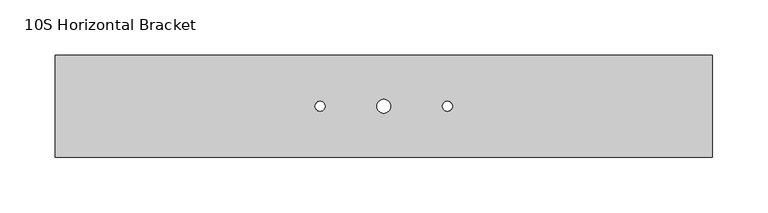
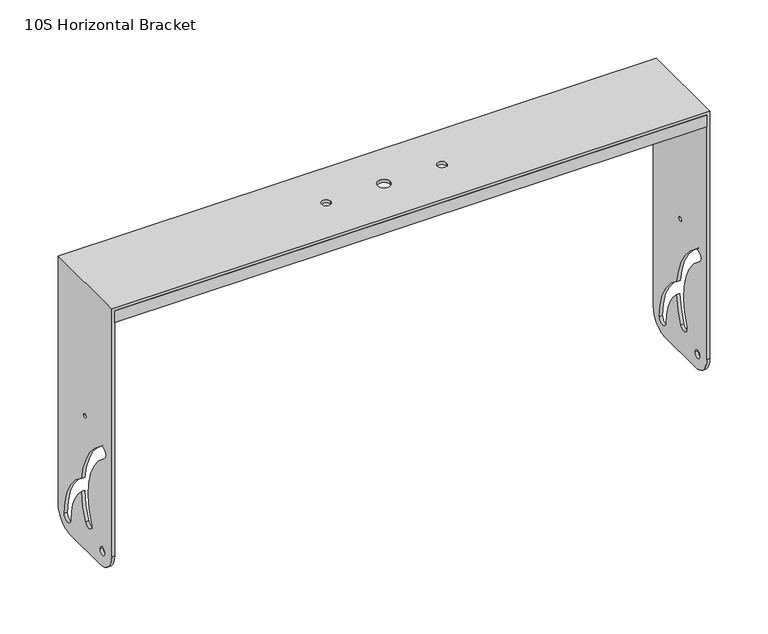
"""IFC4 building model written with IfcOpenShell, lengths in millimetres: proxy geometry, d&b xS-Series 10S Horizontal Bracket : 10S Horizontal Bracket."""

from ifc_helpers import new_model, si_unit, frame, origin, place, context, project, spatial, polyline, circle_curve, outline, extrude, source, transform, mapped, element, save
from ifc_brep_helpers import plane_surface, cylinder_surface, revolved_surface, advanced_brep


def proxy_10s_horizontal_bracket_cd0d0b8b(model_context):
    return source(origin(), model_context, "Body", "SolidModel", [
        extrude(outline(polyline([(-294.0, 68.2354286), (294.0, 68.2354286), (294.0, 65.2354286), (-294.0, 65.2354286), (-294.0, 68.2354286)])), frame((0.0, 0.0, 271.9837494), z_axis=(0.0, 0.0, 1.0), x_axis=(1.0, 0.0, 0.0)), (0.0, 0.0, 1.0), 12.0),
        extrude(outline(polyline([(-294.0, -20.7645714), (294.0, -20.7645714), (294.0, -23.7645714), (-294.0, -23.7645714), (-294.0, -20.7645714)])), frame((0.0, 0.0, 271.9837494), z_axis=(0.0, 0.0, 1.0), x_axis=(1.0, 0.0, 0.0)), (0.0, 0.0, 1.0), 12.0),
        advanced_brep(
        [(-294.0, -23.7645714, 283.9837494), (294.0, -23.7645714, 283.9837494), (294.0, -23.7645714, 26.9837494), (297.0, -23.7645714, 26.9837494), (297.0, -23.7645714, 286.9837494), (-297.0, -23.7645714, 286.9837494), (-297.0, -23.7645714, 26.9837494), (-294.0, -23.7645714, 26.9837494), (-297.0, 68.2354286, 286.9837494), (297.0, 68.2354286, 286.9837494), (297.0, 68.2354286, 26.9837494), (294.0, 68.2354286, 26.9837494), (294.0, 68.2354286, 283.9837494), (-294.0, 68.2354286, 283.9837494), (-294.0, 68.2354286, 26.9837494), (-297.0, 68.2354286, 26.9837494), (-297.0, -3.7645714, 6.9837494), (-297.0, 48.2354286, 6.9837494), (-294.0, 48.2354286, 6.9837494), (-294.0, -3.7645714, 6.9837494), (-294.0, -3.7645714, 22.9837494), (-294.0, -11.7645714, 22.9837494), (-294.0, 57.735397, 23.0021892), (-294.0, 46.7354301, 22.9864166), (-294.0, 28.0032302, 64.1190832), (-294.0, 20.8513164, 36.3290125), (-294.0, 10.9065388, 41.0302249), (-294.0, -11.1639859, 122.5508763), (-294.0, -4.7306092, 131.4704467), (-294.0, 27.5782565, 78.1596119), (-294.0, 24.2354286, 146.9837494), (-294.0, 20.2354286, 146.9837494), (-6.25, 22.2354286, 283.9837494), (6.25, 22.2354286, 283.9837494), (-62.0, 22.2354286, 283.9837494), (-53.0, 22.2354286, 283.9837494), (62.0, 22.2354286, 283.9837494), (53.0, 22.2354286, 283.9837494), (294.0, 48.2354286, 6.9837494), (294.0, -3.7645714, 6.9837494), (294.0, -11.7645714, 22.9837494), (294.0, -3.7645714, 22.9837494), (294.0, 46.7354301, 22.9864166), (294.0, 57.735397, 23.0021892), (294.0, 27.5782565, 78.1596119), (294.0, -4.727646, 131.4747416), (294.0, -11.1639859, 122.5508763), (294.0, 10.9065388, 41.0302249), (294.0, 20.8513164, 36.3290125), (294.0, 28.0032302, 64.1190832), (294.0, 20.2354286, 146.9837494), (294.0, 24.2354286, 146.9837494), (297.0, 48.2354286, 6.9837494), (297.0, -3.7645714, 6.9837494), (297.0, -3.7645714, 22.9837494), (297.0, -11.7645714, 22.9837494), (297.0, 57.735397, 23.0021892), (297.0, 46.7354301, 22.9864166), (297.0, 28.0032302, 64.1190832), (297.0, 20.8513164, 36.3290125), (297.0, 10.9065388, 41.0302249), (297.0, -11.1639859, 122.5508763), (297.0, -4.7306092, 131.4704467), (297.0, 27.5782565, 78.1596119), (297.0, 24.2354286, 146.9837494), (297.0, 20.2354286, 146.9837494), (6.25, 22.2354286, 286.9837494), (-6.25, 22.2354286, 286.9837494), (-53.0, 22.2354286, 286.9837494), (-62.0, 22.2354286, 286.9837494), (53.0, 22.2354286, 286.9837494), (62.0, 22.2354286, 286.9837494), (-297.0, -11.7645714, 22.9837494), (-297.0, -3.7645714, 22.9837494), (-297.0, 46.7354301, 22.9864166), (-297.0, 57.735397, 23.0021892), (-297.0, 27.5782565, 78.1596119), (-297.0, -4.727646, 131.4747416), (-297.0, -11.1639859, 122.5508763), (-297.0, 10.9065388, 41.0302249), (-297.0, 20.8513164, 36.3290125), (-297.0, 28.0032302, 64.1190832), (-297.0, 20.2354286, 146.9837494), (-297.0, 24.2354286, 146.9837494)],
        [
            (0, 1),
            (1, 2),
            (2, 3),
            (3, 4),
            (4, 5),
            (5, 6),
            (6, 7),
            (7, 0),
            (8, 9),
            (9, 10),
            (10, 11),
            (11, 12),
            (12, 13),
            (13, 14),
            (14, 15),
            (15, 8),
            (16, 17),
            (17, 18),
            (18, 19),
            (19, 16),
            (13, 0),
            (7, 19, circle_curve(frame((-294.0, -3.7645714, 26.9837494), z_axis=(1.0, 0.0, 0.0), x_axis=(0.0, 0.0, -1.0)), 20.0)),
            (18, 14, circle_curve(frame((-294.0, 48.2354286, 26.9837494), z_axis=(1.0, 0.0, 0.0), x_axis=(0.0, 0.0, -1.0)), 20.0)),
            (20, 21, circle_curve(frame((-294.0, -7.7645714, 22.9837494), z_axis=(-1.0, 0.0, 0.0), x_axis=(0.0, 1.0, 0.0)), 4.0)),
            (21, 20, circle_curve(frame((-294.0, -7.7645714, 22.9837494), z_axis=(-1.0, 0.0, 0.0), x_axis=(0.0, 1.0, 0.0)), 4.0)),
            (22, 23, circle_curve(frame((-294.0, 52.2354286, 22.9837494), z_axis=(-1.0, 0.0, 0.0), x_axis=(0.0, 1.0, 0.0)), 5.4999992)),
            (23, 24, circle_curve(frame((-294.0, -7.7327749, 23.0128308), z_axis=(1.0, 0.0, 0.0), x_axis=(0.0, 1.0, 0.0)), 54.4682113)),
            (24, 25, circle_curve(frame((-294.0, -47.9366268, 68.8472597), z_axis=(-1.0, 0.0, 0.0), x_axis=(0.0, 1.0, 0.0)), 76.0869077)),
            (25, 26, circle_curve(frame((-294.0, 15.8789276, 38.6796187), z_axis=(-1.0, 0.0, 0.0), x_axis=(0.0, 1.0, 0.0)), 5.5)),
            (26, 27, circle_curve(frame((-294.0, -47.9366268, 68.8472597), z_axis=(1.0, 0.0, 0.0), x_axis=(0.0, 1.0, 0.0)), 65.0869077)),
            (27, 28, circle_curve(frame((-294.0, -7.8540033, 126.9433716), z_axis=(-1.0, 0.0, 0.0), x_axis=(0.0, 1.0, 0.0)), 5.5)),
            (28, 29, circle_curve(frame((-294.0, -47.9366268, 68.8472597), z_axis=(-1.0, 0.0, 0.0), x_axis=(0.0, 1.0, 0.0)), 76.0869076)),
            (29, 22, circle_curve(frame((-294.0, -8.0030682, 22.8827687), z_axis=(-1.0, 0.0, 0.0), x_axis=(0.0, 1.0, 0.0)), 65.7385737)),
            (30, 31, circle_curve(frame((-294.0, 22.2354286, 146.9837494), z_axis=(-1.0, 0.0, 0.0), x_axis=(0.0, 1.0, 0.0)), 2.0)),
            (31, 30, circle_curve(frame((-294.0, 22.2354286, 146.9837494), z_axis=(-1.0, 0.0, 0.0), x_axis=(0.0, 1.0, 0.0)), 2.0)),
            (12, 1),
            (32, 33, circle_curve(frame((0.0, 22.2354286, 283.9837494), z_axis=(0.0, 0.0, 1.0), x_axis=(1.0, 0.0, 0.0)), 6.25)),
            (33, 32, circle_curve(frame((0.0, 22.2354286, 283.9837494), z_axis=(0.0, 0.0, 1.0), x_axis=(1.0, 0.0, 0.0)), 6.25)),
            (34, 35, circle_curve(frame((-57.5, 22.2354286, 283.9837494), z_axis=(0.0, 0.0, 1.0), x_axis=(1.0, 0.0, 0.0)), 4.5)),
            (35, 34, circle_curve(frame((-57.5, 22.2354286, 283.9837494), z_axis=(0.0, 0.0, 1.0), x_axis=(1.0, 0.0, 0.0)), 4.5)),
            (36, 37, circle_curve(frame((57.5, 22.2354286, 283.9837494), z_axis=(0.0, 0.0, 1.0), x_axis=(-1.0, 0.0, 0.0)), 4.5)),
            (37, 36, circle_curve(frame((57.5, 22.2354286, 283.9837494), z_axis=(0.0, 0.0, 1.0), x_axis=(-1.0, 0.0, 0.0)), 4.5)),
            (11, 38, circle_curve(frame((294.0, 48.2354286, 26.9837494), z_axis=(-1.0, 0.0, 0.0), x_axis=(0.0, 0.0, -1.0)), 20.0)),
            (38, 39),
            (39, 2, circle_curve(frame((294.0, -3.7645714, 26.9837494), z_axis=(-1.0, 0.0, 0.0), x_axis=(0.0, 0.0, -1.0)), 20.0)),
            (40, 41, circle_curve(frame((294.0, -7.7645714, 22.9837494), z_axis=(1.0, 0.0, 0.0), x_axis=(0.0, 1.0, 0.0)), 4.0)),
            (41, 40, circle_curve(frame((294.0, -7.7645714, 22.9837494), z_axis=(1.0, 0.0, 0.0), x_axis=(0.0, 1.0, 0.0)), 4.0)),
            (42, 43, circle_curve(frame((294.0, 52.2354286, 22.9837494), z_axis=(1.0, 0.0, 0.0), x_axis=(0.0, 1.0, 0.0)), 5.4999992)),
            (43, 44, circle_curve(frame((294.0, -8.0030682, 22.8827687), z_axis=(1.0, 0.0, 0.0), x_axis=(0.0, 1.0, 0.0)), 65.7385737)),
            (44, 45, circle_curve(frame((294.0, -47.9366268, 68.8472597), z_axis=(1.0, 0.0, 0.0), x_axis=(0.0, 1.0, 0.0)), 76.0869076)),
            (45, 46, circle_curve(frame((294.0, -7.8540033, 126.9433716), z_axis=(1.0, 0.0, 0.0), x_axis=(0.0, 1.0, 0.0)), 5.5)),
            (46, 47, circle_curve(frame((294.0, -47.9366268, 68.8472597), z_axis=(-1.0, 0.0, 0.0), x_axis=(0.0, 1.0, 0.0)), 65.0869077)),
            (47, 48, circle_curve(frame((294.0, 15.8789276, 38.6796187), z_axis=(1.0, 0.0, 0.0), x_axis=(0.0, 1.0, 0.0)), 5.5)),
            (48, 49, circle_curve(frame((294.0, -47.9366268, 68.8472597), z_axis=(1.0, 0.0, 0.0), x_axis=(0.0, 1.0, 0.0)), 76.0869077)),
            (49, 42, circle_curve(frame((294.0, -7.7327749, 23.0128308), z_axis=(-1.0, 0.0, 0.0), x_axis=(0.0, 1.0, 0.0)), 54.4682113)),
            (50, 51, circle_curve(frame((294.0, 22.2354286, 146.9837494), z_axis=(1.0, 0.0, 0.0), x_axis=(0.0, 1.0, 0.0)), 2.0)),
            (51, 50, circle_curve(frame((294.0, 22.2354286, 146.9837494), z_axis=(1.0, 0.0, 0.0), x_axis=(0.0, 1.0, 0.0)), 2.0)),
            (38, 52),
            (52, 53),
            (53, 39),
            (9, 4),
            (3, 53, circle_curve(frame((297.0, -3.7645714, 26.9837494), z_axis=(1.0, 0.0, 0.0), x_axis=(0.0, 0.0, -1.0)), 20.0)),
            (52, 10, circle_curve(frame((297.0, 48.2354286, 26.9837494), z_axis=(1.0, 0.0, 0.0), x_axis=(0.0, 0.0, -1.0)), 20.0)),
            (54, 55, circle_curve(frame((297.0, -7.7645714, 22.9837494), z_axis=(-1.0, 0.0, 0.0), x_axis=(0.0, 1.0, 0.0)), 4.0)),
            (55, 54, circle_curve(frame((297.0, -7.7645714, 22.9837494), z_axis=(-1.0, 0.0, 0.0), x_axis=(0.0, 1.0, 0.0)), 4.0)),
            (56, 57, circle_curve(frame((297.0, 52.2354286, 22.9837494), z_axis=(-1.0, 0.0, 0.0), x_axis=(0.0, 1.0, 0.0)), 5.4999992)),
            (57, 58, circle_curve(frame((297.0, -7.7327749, 23.0128308), z_axis=(1.0, 0.0, 0.0), x_axis=(0.0, 1.0, 0.0)), 54.4682113)),
            (58, 59, circle_curve(frame((297.0, -47.9366268, 68.8472597), z_axis=(-1.0, 0.0, 0.0), x_axis=(0.0, 1.0, 0.0)), 76.0869077)),
            (59, 60, circle_curve(frame((297.0, 15.8789276, 38.6796187), z_axis=(-1.0, 0.0, 0.0), x_axis=(0.0, 1.0, 0.0)), 5.5)),
            (60, 61, circle_curve(frame((297.0, -47.9366268, 68.8472597), z_axis=(1.0, 0.0, 0.0), x_axis=(0.0, 1.0, 0.0)), 65.0869077)),
            (61, 62, circle_curve(frame((297.0, -7.8540033, 126.9433716), z_axis=(-1.0, 0.0, 0.0), x_axis=(0.0, 1.0, 0.0)), 5.5)),
            (62, 63, circle_curve(frame((297.0, -47.9366268, 68.8472597), z_axis=(-1.0, 0.0, 0.0), x_axis=(0.0, 1.0, 0.0)), 76.0869076)),
            (63, 56, circle_curve(frame((297.0, -8.0030682, 22.8827687), z_axis=(-1.0, 0.0, 0.0), x_axis=(0.0, 1.0, 0.0)), 65.7385737)),
            (64, 65, circle_curve(frame((297.0, 22.2354286, 146.9837494), z_axis=(-1.0, 0.0, 0.0), x_axis=(0.0, 1.0, 0.0)), 2.0)),
            (65, 64, circle_curve(frame((297.0, 22.2354286, 146.9837494), z_axis=(-1.0, 0.0, 0.0), x_axis=(0.0, 1.0, 0.0)), 2.0)),
            (8, 5),
            (66, 67, circle_curve(frame((0.0, 22.2354286, 286.9837494), z_axis=(0.0, 0.0, -1.0), x_axis=(1.0, 0.0, 0.0)), 6.25)),
            (67, 66, circle_curve(frame((0.0, 22.2354286, 286.9837494), z_axis=(0.0, 0.0, -1.0), x_axis=(1.0, 0.0, 0.0)), 6.25)),
            (68, 69, circle_curve(frame((-57.5, 22.2354286, 286.9837494), z_axis=(0.0, 0.0, -1.0), x_axis=(1.0, 0.0, 0.0)), 4.5)),
            (69, 68, circle_curve(frame((-57.5, 22.2354286, 286.9837494), z_axis=(0.0, 0.0, -1.0), x_axis=(1.0, 0.0, 0.0)), 4.5)),
            (70, 71, circle_curve(frame((57.5, 22.2354286, 286.9837494), z_axis=(0.0, 0.0, -1.0), x_axis=(-1.0, 0.0, 0.0)), 4.5)),
            (71, 70, circle_curve(frame((57.5, 22.2354286, 286.9837494), z_axis=(0.0, 0.0, -1.0), x_axis=(-1.0, 0.0, 0.0)), 4.5)),
            (15, 17, circle_curve(frame((-297.0, 48.2354286, 26.9837494), z_axis=(-1.0, 0.0, 0.0), x_axis=(0.0, 0.0, -1.0)), 20.0)),
            (16, 6, circle_curve(frame((-297.0, -3.7645714, 26.9837494), z_axis=(-1.0, 0.0, 0.0), x_axis=(0.0, 0.0, -1.0)), 20.0)),
            (72, 73, circle_curve(frame((-297.0, -7.7645714, 22.9837494), z_axis=(1.0, 0.0, 0.0), x_axis=(0.0, 1.0, 0.0)), 4.0)),
            (73, 72, circle_curve(frame((-297.0, -7.7645714, 22.9837494), z_axis=(1.0, 0.0, 0.0), x_axis=(0.0, 1.0, 0.0)), 4.0)),
            (74, 75, circle_curve(frame((-297.0, 52.2354286, 22.9837494), z_axis=(1.0, 0.0, 0.0), x_axis=(0.0, 1.0, 0.0)), 5.4999992)),
            (75, 76, circle_curve(frame((-297.0, -8.0030682, 22.8827687), z_axis=(1.0, 0.0, 0.0), x_axis=(0.0, 1.0, 0.0)), 65.7385737)),
            (76, 77, circle_curve(frame((-297.0, -47.9366268, 68.8472597), z_axis=(1.0, 0.0, 0.0), x_axis=(0.0, 1.0, 0.0)), 76.0869076)),
            (77, 78, circle_curve(frame((-297.0, -7.8540033, 126.9433716), z_axis=(1.0, 0.0, 0.0), x_axis=(0.0, 1.0, 0.0)), 5.5)),
            (78, 79, circle_curve(frame((-297.0, -47.9366268, 68.8472597), z_axis=(-1.0, 0.0, 0.0), x_axis=(0.0, 1.0, 0.0)), 65.0869077)),
            (79, 80, circle_curve(frame((-297.0, 15.8789276, 38.6796187), z_axis=(1.0, 0.0, 0.0), x_axis=(0.0, 1.0, 0.0)), 5.5)),
            (80, 81, circle_curve(frame((-297.0, -47.9366268, 68.8472597), z_axis=(1.0, 0.0, 0.0), x_axis=(0.0, 1.0, 0.0)), 76.0869077)),
            (81, 74, circle_curve(frame((-297.0, -7.7327749, 23.0128308), z_axis=(-1.0, 0.0, 0.0), x_axis=(0.0, 1.0, 0.0)), 54.4682113)),
            (82, 83, circle_curve(frame((-297.0, 22.2354286, 146.9837494), z_axis=(1.0, 0.0, 0.0), x_axis=(0.0, 1.0, 0.0)), 2.0)),
            (83, 82, circle_curve(frame((-297.0, 22.2354286, 146.9837494), z_axis=(1.0, 0.0, 0.0), x_axis=(0.0, 1.0, 0.0)), 2.0)),
            (32, 67),
            (66, 33),
            (34, 69),
            (68, 35),
            (36, 71),
            (70, 37),
            (40, 55),
            (54, 41),
            (72, 21),
            (20, 73),
            (42, 57),
            (56, 43),
            (74, 23),
            (22, 75),
            (63, 44),
            (29, 76),
            (49, 58),
            (81, 24),
            (62, 45),
            (28, 77),
            (61, 46),
            (27, 78),
            (60, 47),
            (26, 79),
            (59, 48),
            (25, 80),
            (50, 65),
            (64, 51),
            (82, 31),
            (30, 83),
        ],
        [
            plane_surface(frame((-297.0, -23.7645714, 6.9837494), z_axis=(0.0, -1.0, 0.0), x_axis=(1.0, 0.0, 0.0))),
            plane_surface(frame((-297.0, 68.2354286, 6.9837494), z_axis=(0.0, 1.0, 0.0), x_axis=(-1.0, 0.0, 0.0))),
            plane_surface(frame((-297.0, -23.7645714, 6.9837494), z_axis=(0.0, 0.0, -1.0), x_axis=(0.0, 1.0, 0.0))),
            plane_surface(frame((-294.0, -23.7645714, 6.9837494), z_axis=(1.0, 0.0, 0.0), x_axis=(0.0, 1.0, 0.0))),
            plane_surface(frame((-294.0, -23.7645714, 283.9837494), z_axis=(0.0, 0.0, -1.0), x_axis=(0.0, 1.0, 0.0))),
            plane_surface(frame((294.0, -23.7645714, 283.9837494), z_axis=(-1.0, 0.0, 0.0), x_axis=(0.0, 1.0, 0.0))),
            plane_surface(frame((294.0, -23.7645714, 6.9837494), z_axis=(0.0, 0.0, -1.0), x_axis=(0.0, 1.0, 0.0))),
            plane_surface(frame((297.0, -23.7645714, 6.9837494), z_axis=(1.0, 0.0, 0.0), x_axis=(0.0, 1.0, 0.0))),
            plane_surface(frame((297.0, -23.7645714, 286.9837494), z_axis=(0.0, 0.0, 1.0), x_axis=(0.0, 1.0, 0.0))),
            plane_surface(frame((-297.0, -23.7645714, 286.9837494), z_axis=(-1.0, 0.0, 0.0), x_axis=(0.0, 1.0, 0.0))),
            cylinder_surface(frame((-400.0, -3.7645714, 26.9837494), z_axis=(-1.0, 0.0, 0.0), x_axis=(0.0, 0.0, -1.0)), 20.0),
            cylinder_surface(frame((0.0, 48.2354286, 26.9837494), z_axis=(-1.0, 0.0, 0.0), x_axis=(0.0, 0.0, -1.0)), 20.0),
            revolved_surface(polyline([(6.25, 22.2354286, 286.9837494), (6.25, 22.2354286, 283.9837494)]), (0.0, 22.2354286, 271.9837494), (0.0, 0.0, 1.0)),
            revolved_surface(polyline([(-53.0, 22.2354286, 286.9837494), (-53.0, 22.2354286, 283.9837494)]), (-57.5, 22.2354286, 286.9837494), (0.0, 0.0, 1.0)),
            revolved_surface(polyline([(53.0, 22.2354286, 286.9837494), (53.0, 22.2354286, 283.9837494)]), (57.5, 22.2354286, 286.9837494), (0.0, 0.0, 1.0)),
            revolved_surface(polyline([(297.0, -3.7645714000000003, 22.9837494), (294.0, -3.7645714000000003, 22.9837494)]), (-400.0, -7.7645714, 22.9837494), (1.0, 0.0, 0.0)),
            revolved_surface(polyline([(-294.0, -3.7645714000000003, 22.9837494), (-297.0, -3.7645714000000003, 22.9837494)]), (-400.0, -7.7645714, 22.9837494), (1.0, 0.0, 0.0)),
            revolved_surface(polyline([(297.0, 57.7354278, 22.9837494), (294.0, 57.7354278, 22.9837494)]), (0.0, 52.2354286, 22.9837494), (1.0, 0.0, 0.0)),
            revolved_surface(polyline([(-294.0, 57.7354278, 22.9837494), (-297.0, 57.7354278, 22.9837494)]), (0.0, 52.2354286, 22.9837494), (1.0, 0.0, 0.0)),
            revolved_surface(polyline([(297.0, 57.7355055, 22.8827687), (294.0, 57.7355055, 22.8827687)]), (0.0, -8.0030682, 22.8827687), (1.0, 0.0, 0.0)),
            revolved_surface(polyline([(-294.0, 57.7355055, 22.8827687), (-297.0, 57.7355055, 22.8827687)]), (0.0, -8.0030682, 22.8827687), (1.0, 0.0, 0.0)),
            cylinder_surface(frame((0.0, -7.7327749, 23.0128308), z_axis=(-1.0, 0.0, 0.0), x_axis=(0.0, 1.0, 0.0)), 54.4682113),
            revolved_surface(polyline([(297.0, 28.150280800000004, 68.8472597), (294.0, 28.150280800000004, 68.8472597)]), (0.0, -47.9366268, 68.8472597), (1.0, 0.0, 0.0)),
            revolved_surface(polyline([(-294.0, 28.150280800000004, 68.8472597), (-297.0, 28.150280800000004, 68.8472597)]), (0.0, -47.9366268, 68.8472597), (1.0, 0.0, 0.0)),
            revolved_surface(polyline([(297.0, -2.3540032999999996, 126.9433716), (294.0, -2.3540032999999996, 126.9433716)]), (0.0, -7.8540033, 126.9433716), (1.0, 0.0, 0.0)),
            revolved_surface(polyline([(-294.0, -2.3540032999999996, 126.9433716), (-297.0, -2.3540032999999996, 126.9433716)]), (0.0, -7.8540033, 126.9433716), (1.0, 0.0, 0.0)),
            cylinder_surface(frame((0.0, -47.9366268, 68.8472597), z_axis=(-1.0, 0.0, 0.0), x_axis=(0.0, 1.0, 0.0)), 65.0869077),
            revolved_surface(polyline([(297.0, 21.3789276, 38.6796187), (294.0, 21.3789276, 38.6796187)]), (0.0, 15.8789276, 38.6796187), (1.0, 0.0, 0.0)),
            revolved_surface(polyline([(-294.0, 21.3789276, 38.6796187), (-297.0, 21.3789276, 38.6796187)]), (0.0, 15.8789276, 38.6796187), (1.0, 0.0, 0.0)),
            revolved_surface(polyline([(297.0, 28.1502809, 68.8472597), (294.0, 28.1502809, 68.8472597)]), (0.0, -47.9366268, 68.8472597), (1.0, 0.0, 0.0)),
            revolved_surface(polyline([(-294.0, 28.1502809, 68.8472597), (-297.0, 28.1502809, 68.8472597)]), (0.0, -47.9366268, 68.8472597), (1.0, 0.0, 0.0)),
            revolved_surface(polyline([(297.0, 24.2354286, 146.9837494), (294.0, 24.2354286, 146.9837494)]), (0.0, 22.2354286, 146.9837494), (1.0, 0.0, 0.0)),
            revolved_surface(polyline([(-294.0, 24.2354286, 146.9837494), (-297.0, 24.2354286, 146.9837494)]), (0.0, 22.2354286, 146.9837494), (1.0, 0.0, 0.0)),
        ],
        [
            (0, [[1, 2, 3, 4, 5, 6, 7, 8]]),
            (1, [[9, 10, 11, 12, 13, 14, 15, 16]]),
            (2, [[17, 18, 19, 20]]),
            (3, [[21, -8, 22, -19, 23, -14], [24, 25], [26, 27, 28, 29, 30, 31, 32, 33], [34, 35]]),
            (4, [[-1, -21, -13, 36], [37, 38], [39, 40], [41, 42]]),
            (5, [[-36, -12, 43, 44, 45, -2], [46, 47], [48, 49, 50, 51, 52, 53, 54, 55], [56, 57]]),
            (6, [[-44, 58, 59, 60]]),
            (7, [[61, -4, 62, -59, 63, -10], [64, 65], [66, 67, 68, 69, 70, 71, 72, 73], [74, 75]]),
            (8, [[-5, -61, -9, 76], [77, 78], [79, 80], [81, 82]]),
            (9, [[-76, -16, 83, -17, 84, -6], [85, 86], [87, 88, 89, 90, 91, 92, 93, 94], [95, 96]]),
            (10, [[-3, -45, -60, -62]]),
            (10, [[-7, -84, -20, -22]]),
            (11, [[-11, -63, -58, -43]]),
            (11, [[-15, -23, -18, -83]]),
            (12, [[97, -77, 98, -37]]),
            (12, [[-97, -38, -98, -78]]),
            (13, [[99, -79, 100, -39]]),
            (13, [[-99, -40, -100, -80]]),
            (14, [[101, -81, 102, -41]]),
            (14, [[-101, -42, -102, -82]]),
            (15, [[103, -64, 104, -46]]),
            (16, [[105, -24, 106, -85]]),
            (15, [[-103, -47, -104, -65]]),
            (16, [[-105, -86, -106, -25]]),
            (17, [[107, -66, 108, -48]]),
            (18, [[109, -26, 110, -87]]),
            (19, [[-108, -73, 111, -49]]),
            (20, [[-110, -33, 112, -88]]),
            (21, [[-107, -55, 113, -67]]),
            (21, [[-109, -94, 114, -27]]),
            (22, [[-111, -72, 115, -50]]),
            (23, [[-112, -32, 116, -89]]),
            (24, [[-115, -71, 117, -51]]),
            (25, [[-116, -31, 118, -90]]),
            (26, [[-117, -70, 119, -52]]),
            (26, [[-118, -30, 120, -91]]),
            (27, [[-119, -69, 121, -53]]),
            (28, [[-120, -29, 122, -92]]),
            (29, [[-113, -54, -121, -68]]),
            (30, [[-114, -93, -122, -28]]),
            (31, [[123, -74, 124, -56]]),
            (32, [[125, -34, 126, -95]]),
            (31, [[-123, -57, -124, -75]]),
            (32, [[-125, -96, -126, -35]]),
        ],
    ),
    ])


if __name__ == "__main__":
    model = new_model("IFC4")
    model_context = context("Model", 3, world=origin())
    ifc_project = project(units=[si_unit("LENGTHUNIT", "METRE", prefix="MILLI")], contexts=[model_context])
    site = spatial("IfcSite", under=ifc_project)
    building = spatial("IfcBuilding", under=site)
    placement = place(None, origin())
    proxy_10s_horizontal_bracket_shape = proxy_10s_horizontal_bracket_cd0d0b8b(model_context)
    element("IfcBuildingElementProxy", 1, Name="d&b xS-Series 10S Horizontal Bracket : 10S Horizontal Bracket", ObjectType="d&b xS-Series 10S Horizontal Bracket : 10S Horizontal Bracket", at=placement, inside=building, context=model_context, shape_type="MappedRepresentation", body=[
        mapped(proxy_10s_horizontal_bracket_shape, transform((0.0, 0.0, 0.0), x_axis=(1.0, 0.0, 0.0), y_axis=(0.0, 1.0, 0.0), z_axis=(0.0, 0.0, 1.0))),
    ])
    save(model, "model.ifc")
